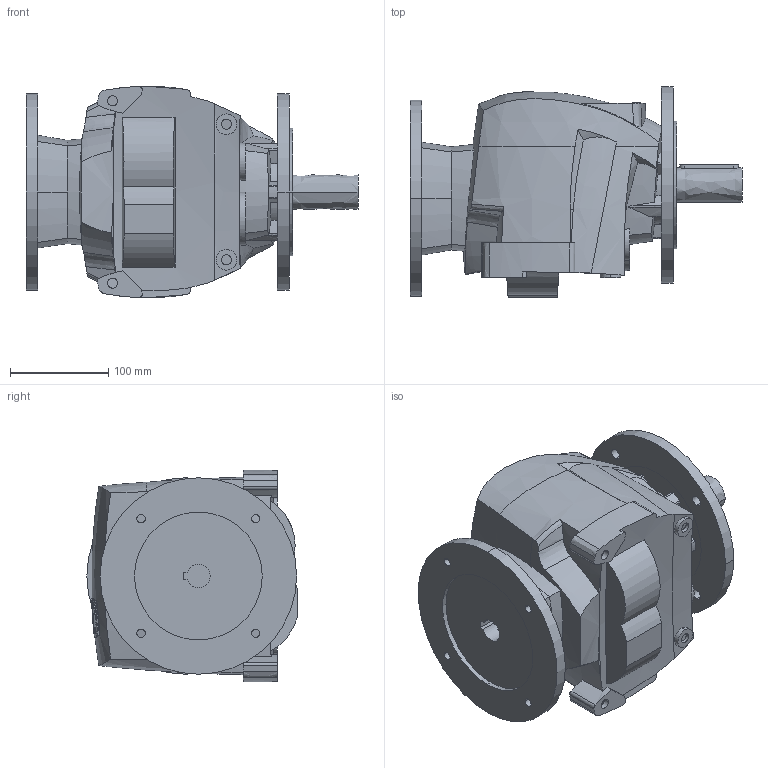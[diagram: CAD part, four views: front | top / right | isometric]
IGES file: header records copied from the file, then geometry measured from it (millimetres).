
Start section:  PTC IGES file: r30_200_pam90_d2.igs
Global section: file name: r30_200_pam90_d2.igs; native system: Pro/ENGINEER by Parametric Technology Corporation; preprocessor: 2008230; author: Luca; organization: Unknown; date: 20131122.155541; units: millimetre
Bounding box: 338 x 214 x 215.22 mm (x, y, z)
Volume: 6837375.7 mm3; surface area: 340943.8 mm2
Topology: 1 solids, 7 shells, 410 faces, 1099 edges, 736 vertices
Faces by surface type: bspline 225, revolution 168, extrusion 17
